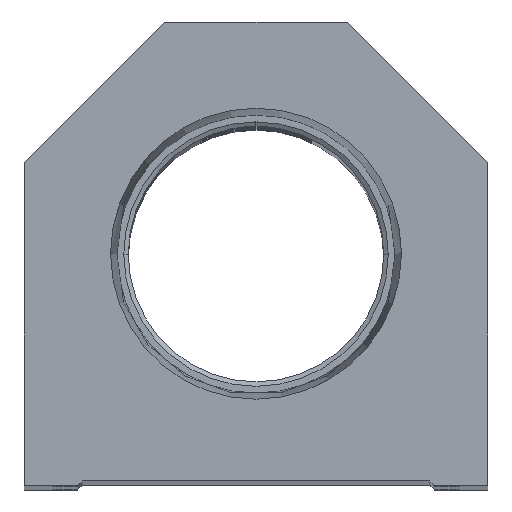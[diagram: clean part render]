
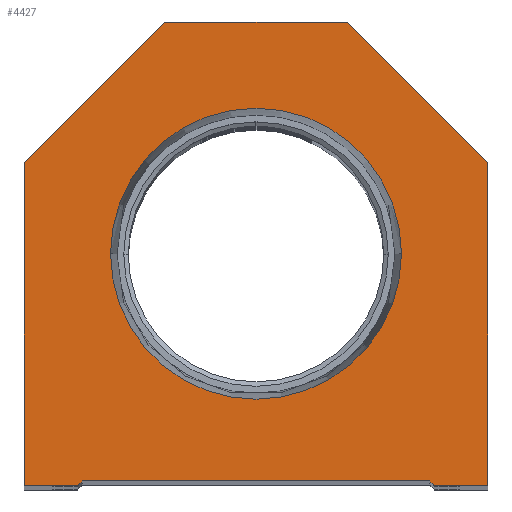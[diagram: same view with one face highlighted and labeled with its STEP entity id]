
A CAD part, top view. The second image highlights one B-rep face of the part: STEP entity #4427.
In plain terms, the highlighted planar face has unit normal (0, 0, 1).
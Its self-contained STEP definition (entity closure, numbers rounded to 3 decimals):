
#67 = CARTESIAN_POINT ( 'NONE',  ( -10., 50.8, 0. ) ) ;
#245 = CARTESIAN_POINT ( 'NONE',  ( -19.55, 0., 0. ) ) ;
#437 = VECTOR ( 'NONE', #8207, 1000. ) ;
#499 = EDGE_CURVE ( 'NONE', #3859, #12801, #5880, .T. ) ;
#546 = CARTESIAN_POINT ( 'NONE',  ( -25.4, 35.4, 0. ) ) ;
#629 = EDGE_CURVE ( 'NONE', #6185, #3859, #6509, .T. ) ;
#1012 = DIRECTION ( 'NONE',  ( 1., 0., 0. ) ) ;
#1057 = CARTESIAN_POINT ( 'NONE',  ( 10., 50.8, 0. ) ) ;
#1121 = CARTESIAN_POINT ( 'NONE',  ( 19.05, 0.5, 0. ) ) ;
#1566 = CIRCLE ( 'NONE', #12537, 15.947 ) ;
#1648 = PLANE ( 'NONE',  #4047 ) ;
#1976 = DIRECTION ( 'NONE',  ( -0.707, 0.707, 0. ) ) ;
#2112 = CARTESIAN_POINT ( 'NONE',  ( -19.05, 0.5, 0. ) ) ;
#2393 = CARTESIAN_POINT ( 'NONE',  ( 0., 25.4, 0. ) ) ;
#2423 = VERTEX_POINT ( 'NONE', #6467 ) ;
#2511 = CARTESIAN_POINT ( 'NONE',  ( 9.775, 9.775, 0. ) ) ;
#2547 = CARTESIAN_POINT ( 'NONE',  ( 0., 25.4, 0. ) ) ;
#2775 = ORIENTED_EDGE ( 'NONE', *, *, #499, .T. ) ;
#2838 = DIRECTION ( 'NONE',  ( 0., 0., 1. ) ) ;
#2946 = VERTEX_POINT ( 'NONE', #245 ) ;
#3266 = CARTESIAN_POINT ( 'NONE',  ( 25.4, 35.4, 0. ) ) ;
#3321 = EDGE_CURVE ( 'NONE', #13150, #4664, #1566, .T. ) ;
#3528 = CARTESIAN_POINT ( 'NONE',  ( 15.947, 25.4, 0. ) ) ;
#3845 = DIRECTION ( 'NONE',  ( 1., 0., 0. ) ) ;
#3859 = VERTEX_POINT ( 'NONE', #16091 ) ;
#3893 = DIRECTION ( 'NONE',  ( 0., 1., 0. ) ) ;
#4047 = AXIS2_PLACEMENT_3D ( 'NONE', #4199, #2838, #9991 ) ;
#4128 = VERTEX_POINT ( 'NONE', #6403 ) ;
#4163 = ORIENTED_EDGE ( 'NONE', *, *, #17010, .F. ) ;
#4199 = CARTESIAN_POINT ( 'NONE',  ( 0., 0., 0. ) ) ;
#4427 = ADVANCED_FACE ( 'NONE', ( #5443, #14017 ), #1648, .T. ) ;
#4559 = CARTESIAN_POINT ( 'NONE',  ( -15.947, 25.4, 0. ) ) ;
#4664 = VERTEX_POINT ( 'NONE', #4559 ) ;
#4812 = EDGE_LOOP ( 'NONE', ( #6286, #10294, #11804, #5996, #14215, #12637, #2775, #8803, #11187, #16160 ) ) ;
#4820 = DIRECTION ( 'NONE',  ( 1., 0., 0. ) ) ;
#5015 = DIRECTION ( 'NONE',  ( 0., -1., 0. ) ) ;
#5124 = CARTESIAN_POINT ( 'NONE',  ( 19.55, 0., 0. ) ) ;
#5265 = VECTOR ( 'NONE', #14258, 1000. ) ;
#5443 = FACE_BOUND ( 'NONE', #17796, .T. ) ;
#5656 = VECTOR ( 'NONE', #1976, 1000. ) ;
#5852 = EDGE_CURVE ( 'NONE', #2423, #4128, #17410, .T. ) ;
#5880 = LINE ( 'NONE', #3266, #5656 ) ;
#5996 = ORIENTED_EDGE ( 'NONE', *, *, #11415, .T. ) ;
#6185 = VERTEX_POINT ( 'NONE', #7950 ) ;
#6286 = ORIENTED_EDGE ( 'NONE', *, *, #17800, .T. ) ;
#6319 = VECTOR ( 'NONE', #14201, 1000. ) ;
#6403 = CARTESIAN_POINT ( 'NONE',  ( -25.4, 0., 0. ) ) ;
#6467 = CARTESIAN_POINT ( 'NONE',  ( -25.4, 35.4, 0. ) ) ;
#6509 = LINE ( 'NONE', #17540, #6535 ) ;
#6535 = VECTOR ( 'NONE', #3893, 1000. ) ;
#6614 = DIRECTION ( 'NONE',  ( 0., 0., 1. ) ) ;
#7333 = CIRCLE ( 'NONE', #13668, 15.947 ) ;
#7614 = LINE ( 'NONE', #11609, #8136 ) ;
#7950 = CARTESIAN_POINT ( 'NONE',  ( 25.4, 0., 0. ) ) ;
#7997 = VERTEX_POINT ( 'NONE', #67 ) ;
#8007 = DIRECTION ( 'NONE',  ( 0.707, -0.707, 0. ) ) ;
#8136 = VECTOR ( 'NONE', #17117, 1000. ) ;
#8207 = DIRECTION ( 'NONE',  ( 1., 0., 0. ) ) ;
#8803 = ORIENTED_EDGE ( 'NONE', *, *, #9651, .T. ) ;
#8897 = CARTESIAN_POINT ( 'NONE',  ( -19.05, 0.5, 0. ) ) ;
#9080 = DIRECTION ( 'NONE',  ( 0., 0., 1. ) ) ;
#9322 = EDGE_CURVE ( 'NONE', #13896, #15129, #10455, .T. ) ;
#9651 = EDGE_CURVE ( 'NONE', #12801, #7997, #17104, .T. ) ;
#9991 = DIRECTION ( 'NONE',  ( 1., 0., 0. ) ) ;
#10294 = ORIENTED_EDGE ( 'NONE', *, *, #12181, .T. ) ;
#10348 = CARTESIAN_POINT ( 'NONE',  ( 10., 50.8, 0. ) ) ;
#10455 = LINE ( 'NONE', #8897, #13782 ) ;
#10923 = LINE ( 'NONE', #2511, #14166 ) ;
#10944 = CARTESIAN_POINT ( 'NONE',  ( -19.05, 0., 0. ) ) ;
#11151 = CARTESIAN_POINT ( 'NONE',  ( -9.775, 9.775, 0. ) ) ;
#11157 = CARTESIAN_POINT ( 'NONE',  ( -25.4, 0., 0. ) ) ;
#11187 = ORIENTED_EDGE ( 'NONE', *, *, #15364, .T. ) ;
#11415 = EDGE_CURVE ( 'NONE', #15129, #12624, #10923, .T. ) ;
#11609 = CARTESIAN_POINT ( 'NONE',  ( 19.05, 0., 0. ) ) ;
#11804 = ORIENTED_EDGE ( 'NONE', *, *, #9322, .T. ) ;
#12181 = EDGE_CURVE ( 'NONE', #2946, #13896, #12495, .T. ) ;
#12495 = LINE ( 'NONE', #11151, #12769 ) ;
#12531 = ORIENTED_EDGE ( 'NONE', *, *, #3321, .F. ) ;
#12537 = AXIS2_PLACEMENT_3D ( 'NONE', #2547, #6614, #1012 ) ;
#12624 = VERTEX_POINT ( 'NONE', #5124 ) ;
#12637 = ORIENTED_EDGE ( 'NONE', *, *, #629, .T. ) ;
#12769 = VECTOR ( 'NONE', #15362, 1000. ) ;
#12801 = VERTEX_POINT ( 'NONE', #1057 ) ;
#12911 = LINE ( 'NONE', #546, #5265 ) ;
#13150 = VERTEX_POINT ( 'NONE', #3528 ) ;
#13668 = AXIS2_PLACEMENT_3D ( 'NONE', #2393, #9080, #3845 ) ;
#13782 = VECTOR ( 'NONE', #4820, 1000. ) ;
#13793 = LINE ( 'NONE', #10944, #437 ) ;
#13896 = VERTEX_POINT ( 'NONE', #2112 ) ;
#14017 = FACE_OUTER_BOUND ( 'NONE', #4812, .T. ) ;
#14166 = VECTOR ( 'NONE', #8007, 1000. ) ;
#14201 = DIRECTION ( 'NONE',  ( -1., 0., 0. ) ) ;
#14215 = ORIENTED_EDGE ( 'NONE', *, *, #15666, .T. ) ;
#14258 = DIRECTION ( 'NONE',  ( -0.707, -0.707, 0. ) ) ;
#15129 = VERTEX_POINT ( 'NONE', #1121 ) ;
#15362 = DIRECTION ( 'NONE',  ( 0.707, 0.707, 0. ) ) ;
#15364 = EDGE_CURVE ( 'NONE', #7997, #2423, #12911, .T. ) ;
#15666 = EDGE_CURVE ( 'NONE', #12624, #6185, #7614, .T. ) ;
#16091 = CARTESIAN_POINT ( 'NONE',  ( 25.4, 35.4, 0. ) ) ;
#16160 = ORIENTED_EDGE ( 'NONE', *, *, #5852, .T. ) ;
#16170 = VECTOR ( 'NONE', #5015, 1000. ) ;
#17010 = EDGE_CURVE ( 'NONE', #4664, #13150, #7333, .T. ) ;
#17104 = LINE ( 'NONE', #10348, #6319 ) ;
#17117 = DIRECTION ( 'NONE',  ( 1., 0., 0. ) ) ;
#17410 = LINE ( 'NONE', #11157, #16170 ) ;
#17540 = CARTESIAN_POINT ( 'NONE',  ( 25.4, 0., 0. ) ) ;
#17796 = EDGE_LOOP ( 'NONE', ( #12531, #4163 ) ) ;
#17800 = EDGE_CURVE ( 'NONE', #4128, #2946, #13793, .T. ) ;
